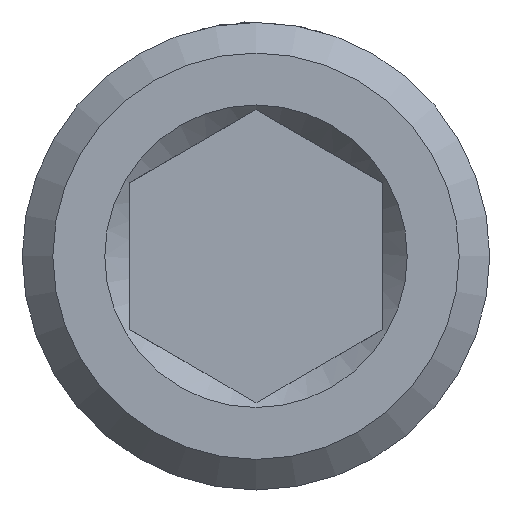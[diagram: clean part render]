
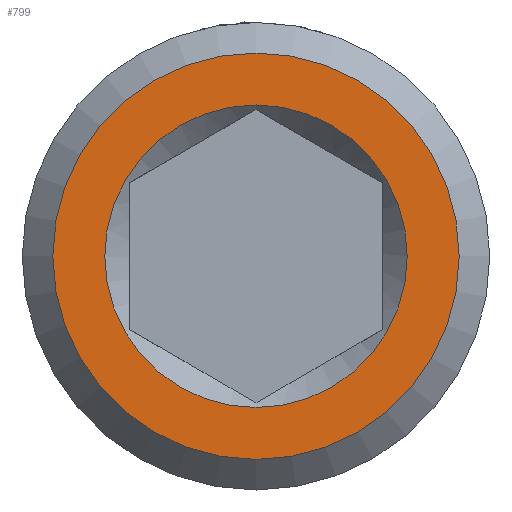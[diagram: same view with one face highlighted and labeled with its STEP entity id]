
A CAD part, front view. The second image highlights one B-rep face of the part: STEP entity #799.
In plain terms, the highlighted planar face has unit normal (0, -1, 0).
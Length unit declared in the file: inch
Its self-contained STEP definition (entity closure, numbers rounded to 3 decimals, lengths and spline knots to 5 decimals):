
#17=FACE_BOUND('',#174,.T.);
#75=CIRCLE('',#884,0.335);
#76=CIRCLE('',#886,0.45);
#124=FACE_OUTER_BOUND('',#173,.T.);
#173=EDGE_LOOP('',(#692));
#174=EDGE_LOOP('',(#693));
#371=VERTEX_POINT('',#1694);
#372=VERTEX_POINT('',#1698);
#481=EDGE_CURVE('',#371,#371,#75,.T.);
#482=EDGE_CURVE('',#372,#372,#76,.T.);
#692=ORIENTED_EDGE('',*,*,#482,.F.);
#693=ORIENTED_EDGE('',*,*,#481,.F.);
#757=PLANE('',#885);
#799=ADVANCED_FACE('',(#124,#17),#757,.T.);
#884=AXIS2_PLACEMENT_3D('',#1696,#1066,#1067);
#885=AXIS2_PLACEMENT_3D('',#1697,#1068,#1069);
#886=AXIS2_PLACEMENT_3D('',#1699,#1070,#1071);
#1066=DIRECTION('center_axis',(0.,-1.,0.));
#1067=DIRECTION('ref_axis',(0.,0.,1.));
#1068=DIRECTION('center_axis',(0.,-1.,0.));
#1069=DIRECTION('ref_axis',(0.,0.,-1.));
#1070=DIRECTION('center_axis',(0.,1.,0.));
#1071=DIRECTION('ref_axis',(0.,0.,1.));
#1694=CARTESIAN_POINT('',(0.,0.,-0.335));
#1696=CARTESIAN_POINT('Origin',(0.,0.,0.));
#1697=CARTESIAN_POINT('Origin',(0.,0.,-0.28));
#1698=CARTESIAN_POINT('',(0.,0.,-0.45));
#1699=CARTESIAN_POINT('Origin',(0.,0.,0.));
